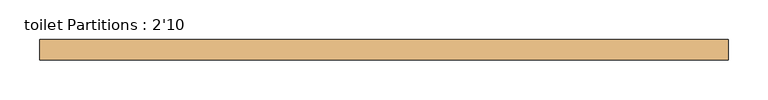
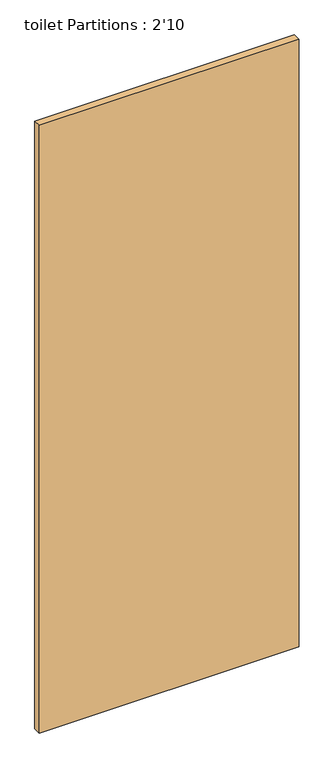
"""IFC4 building model written with IfcOpenShell, lengths in millimetres: door geometry, toilet Partitions : 2'10."""

from ifc_helpers import new_model, si_unit, origin, origin_with_axes, place, context, project, spatial, polyline, outline, extrude, source, transform, mapped, element, save


def toilet_partitions_2_10_251e7a51(model_context):
    return source(origin(), model_context, "Body", "SweptSolid", [
        extrude(outline(polyline([(431.8, 0.0), (431.8, -25.4), (-431.8, -25.4), (-431.8, 0.0), (431.8, 0.0)])), origin_with_axes(), (0.0, 0.0, 1.0), 2133.6),
    ])


if __name__ == "__main__":
    model = new_model("IFC4")
    model_context = context("Model", 3, world=origin())
    ifc_project = project(units=[si_unit("LENGTHUNIT", "METRE", prefix="MILLI")], contexts=[model_context])
    site = spatial("IfcSite", under=ifc_project)
    building = spatial("IfcBuilding", under=site)
    placement = place(None, origin())
    toilet_partitions_2_10_shape = toilet_partitions_2_10_251e7a51(model_context)
    element("IfcDoor", 1, ObjectType="toilet Partitions : 2'10", at=placement, inside=building, context=model_context, shape_type="MappedRepresentation", body=[
        mapped(toilet_partitions_2_10_shape, transform((0.0, 0.0, 0.0), x_axis=(1.0, 0.0, 0.0), y_axis=(0.0, 1.0, 0.0), z_axis=(0.0, 0.0, 1.0))),
    ])
    save(model, "model.ifc")
